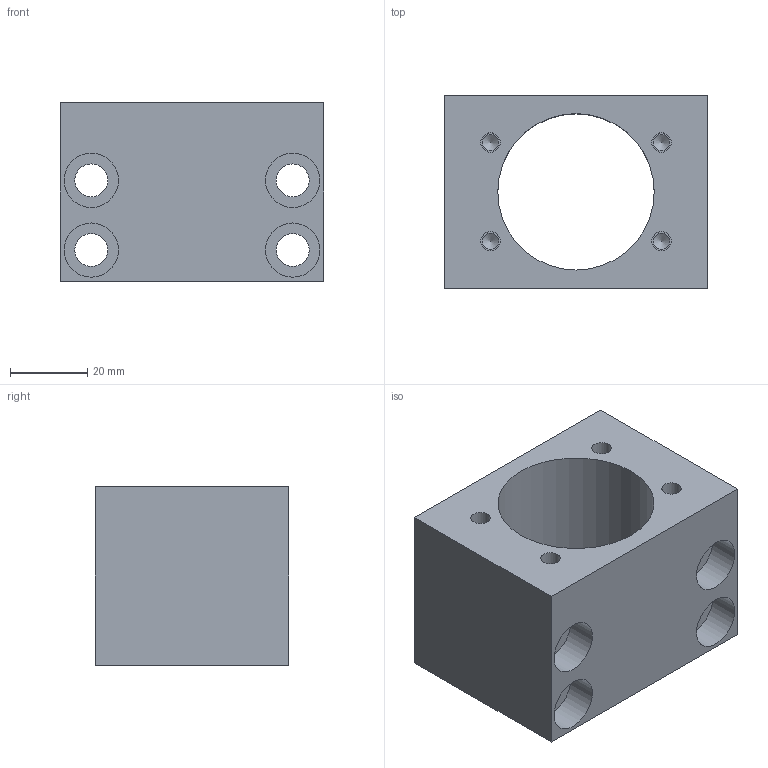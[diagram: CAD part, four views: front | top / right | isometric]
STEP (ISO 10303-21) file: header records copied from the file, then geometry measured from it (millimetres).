
FILE_DESCRIPTION(/* description */ (''),/* implementation_level */ '2;1');
FILE_NAME(/* name */ 'NH16C.stp',/* time_stamp */ '2017-01-05T14:12:13+08:00',/* author */ (''),/* organization */ (''),/* preprocessor_version */ 'ST-DEVELOPER v15',/* originating_system */ 'SIEMENS PLM Software NX 8.5',/* authorisation */ '');
FILE_SCHEMA (('AUTOMOTIVE_DESIGN { 1 0 10303 214 3 1 1 1 }'));
Length unit declared in the file: millimetre
Products named in the file (1): Admi1CF0E4A5a5y2
Bounding box: 68 x 50 x 46 mm (x, y, z)
Volume: 80743.1 mm3; surface area: 27398.6 mm2
Topology: 1 solids, 1 shells, 43 faces, 92 edges, 63 vertices
Faces by surface type: cylinder 21, plane 18, cone 4
Full cylindrical faces by diameter (mm): 4.2 x4, 5 x4, 8.5 x4, 10 x4, 14 x4, 40.4 x1
Entity records: 1014 total; most frequent: DIRECTION 184, CARTESIAN_POINT 152, ORIENTED_EDGE 108, FACE_BOUND 92, EDGE_LOOP 90, AXIS2_PLACEMENT_3D 86, VERTEX_POINT 54, EDGE_CURVE 54
